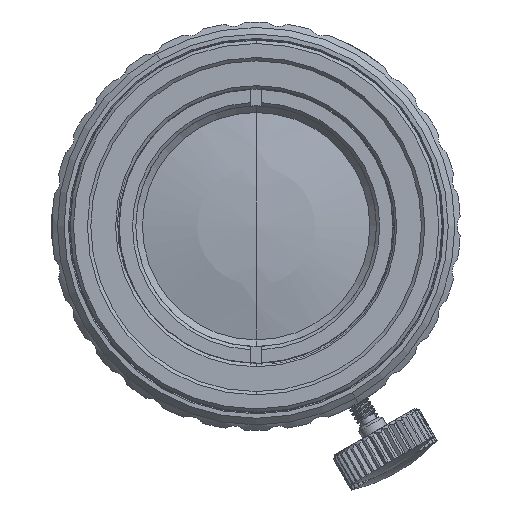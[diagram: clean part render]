
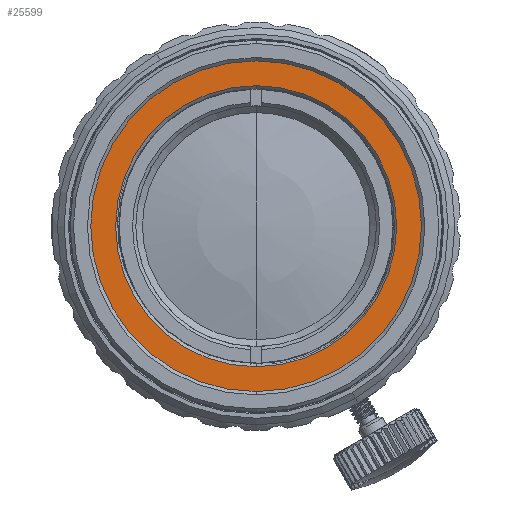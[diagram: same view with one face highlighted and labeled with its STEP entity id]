
A CAD part, left-side view. The second image highlights one B-rep face of the part: STEP entity #25599.
In plain terms, the highlighted planar face has unit normal (-1, 0, 0).
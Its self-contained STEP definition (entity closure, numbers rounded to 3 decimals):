
#24024=CARTESIAN_POINT('',(-21.474,0.,0.));
#24025=DIRECTION('',(1.,0.,0.));
#24026=DIRECTION('',(0.,-1.,0.));
#24027=AXIS2_PLACEMENT_3D('',#24024,#24025,#24026);
#24032=CARTESIAN_POINT('',(-21.474,0.,0.));
#24033=DIRECTION('',(-1.,0.,0.));
#24034=DIRECTION('',(0.,-1.,0.));
#24035=AXIS2_PLACEMENT_3D('',#24032,#24033,#24034);
#24047=CARTESIAN_POINT('',(-21.474,0.,0.));
#24048=DIRECTION('',(-1.,0.,0.));
#24049=DIRECTION('',(0.,-1.,0.));
#24050=AXIS2_PLACEMENT_3D('',#24047,#24048,#24049);
#24062=CARTESIAN_POINT('',(-21.474,0.,0.));
#24063=DIRECTION('',(1.,0.,0.));
#24064=DIRECTION('',(0.,-1.,0.));
#24065=AXIS2_PLACEMENT_3D('',#24062,#24063,#24064);
#25276=CARTESIAN_POINT('',(-21.474,-12.73,0.));
#25277=VERTEX_POINT('',#25276);
#25278=CARTESIAN_POINT('',(-21.474,-15.35,0.));
#25280=VERTEX_POINT('',#25278);
#25304=CARTESIAN_POINT('',(-21.474,12.73,0.));
#25305=VERTEX_POINT('',#25304);
#25306=CARTESIAN_POINT('',(-21.474,15.35,0.));
#25308=VERTEX_POINT('',#25306);
#25584=CARTESIAN_POINT('',(-21.474,0.,0.));
#25585=DIRECTION('',(1.,0.,0.));
#25586=DIRECTION('',(0.,-1.,0.));
#25587=AXIS2_PLACEMENT_3D('',#25584,#25585,#25586);
#25588=PLANE('',#25587);
#25590=ORIENTED_EDGE('',*,*,#25589,.F.);
#25592=ORIENTED_EDGE('',*,*,#25591,.T.);
#25593=EDGE_LOOP('',(#25590,#25592));
#25594=FACE_OUTER_BOUND('',#25593,.F.);
#25595=ORIENTED_EDGE('',*,*,#25577,.F.);
#25596=ORIENTED_EDGE('',*,*,#25566,.T.);
#25597=EDGE_LOOP('',(#25595,#25596));
#25598=FACE_BOUND('',#25597,.F.);
#24028=CIRCLE('',#24027,12.73);
#24036=CIRCLE('',#24035,12.73);
#24051=CIRCLE('',#24050,15.35);
#24066=CIRCLE('',#24065,15.35);
#25566=EDGE_CURVE('',#25277,#25305,#24036,.T.);
#25577=EDGE_CURVE('',#25277,#25305,#24028,.T.);
#25589=EDGE_CURVE('',#25280,#25308,#24051,.T.);
#25591=EDGE_CURVE('',#25280,#25308,#24066,.T.);
#25599=ADVANCED_FACE('',(#25594,#25598),#25588,.F.);
